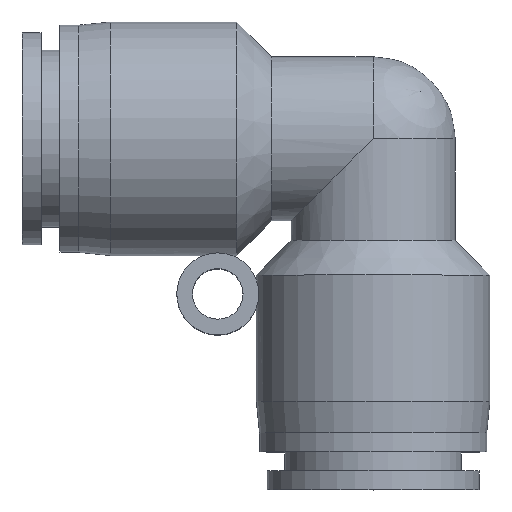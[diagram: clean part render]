
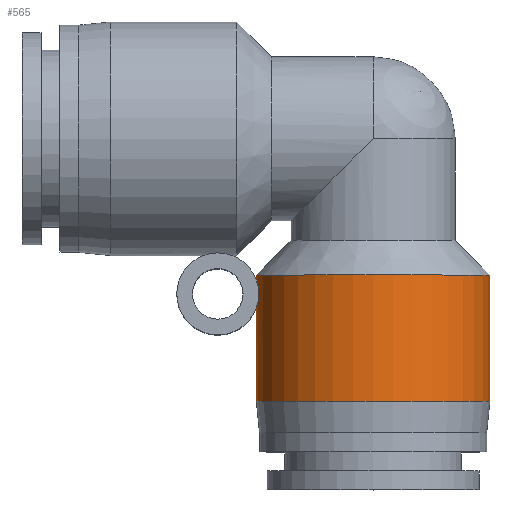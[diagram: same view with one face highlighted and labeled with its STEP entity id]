
A CAD part, top view. The second image highlights one B-rep face of the part: STEP entity #565.
In plain terms, the highlighted cylindrical face has radius 9.25 mm (diameter 18.5 mm), a full revolution.
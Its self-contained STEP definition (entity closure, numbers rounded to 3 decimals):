
#84=CARTESIAN_POINT('',(-9.25,-13.422,0.));
#85=VERTEX_POINT('',#84);
#86=CARTESIAN_POINT('',(-9.25,-13.422,0.));
#87=CARTESIAN_POINT('',(-9.25,-13.422,-0.308));
#88=CARTESIAN_POINT('',(-9.233,-13.38,-0.641));
#89=CARTESIAN_POINT('',(-9.186,-13.231,-1.098));
#90=CARTESIAN_POINT('',(-9.167,-13.168,-1.243));
#91=CARTESIAN_POINT('',(-9.127,-13.01,-1.507));
#92=CARTESIAN_POINT('',(-9.107,-12.915,-1.626));
#93=CARTESIAN_POINT('',(-9.078,-12.73,-1.777));
#94=CARTESIAN_POINT('',(-9.068,-12.65,-1.827));
#95=CARTESIAN_POINT('',(-9.054,-12.479,-1.895));
#96=CARTESIAN_POINT('',(-9.05,-12.387,-1.913));
#97=CARTESIAN_POINT('',(-9.05,-12.213,-1.913));
#98=CARTESIAN_POINT('',(-9.054,-12.121,-1.895));
#99=CARTESIAN_POINT('',(-9.068,-11.95,-1.827));
#100=CARTESIAN_POINT('',(-9.078,-11.87,-1.777));
#101=CARTESIAN_POINT('',(-9.107,-11.685,-1.626));
#102=CARTESIAN_POINT('',(-9.127,-11.59,-1.507));
#103=CARTESIAN_POINT('',(-9.167,-11.432,-1.243));
#104=CARTESIAN_POINT('',(-9.186,-11.369,-1.098));
#105=CARTESIAN_POINT('',(-9.233,-11.22,-0.641));
#106=CARTESIAN_POINT('',(-9.25,-11.178,-0.308));
#107=CARTESIAN_POINT('',(-9.25,-11.178,0.308));
#108=CARTESIAN_POINT('',(-9.233,-11.22,0.641));
#109=CARTESIAN_POINT('',(-9.186,-11.369,1.098));
#110=CARTESIAN_POINT('',(-9.167,-11.432,1.243));
#111=CARTESIAN_POINT('',(-9.127,-11.59,1.507));
#112=CARTESIAN_POINT('',(-9.107,-11.685,1.626));
#113=CARTESIAN_POINT('',(-9.078,-11.87,1.777));
#114=CARTESIAN_POINT('',(-9.068,-11.95,1.827));
#115=CARTESIAN_POINT('',(-9.054,-12.121,1.895));
#116=CARTESIAN_POINT('',(-9.05,-12.213,1.913));
#117=CARTESIAN_POINT('',(-9.05,-12.387,1.913));
#118=CARTESIAN_POINT('',(-9.054,-12.479,1.895));
#119=CARTESIAN_POINT('',(-9.068,-12.65,1.827));
#120=CARTESIAN_POINT('',(-9.078,-12.73,1.777));
#121=CARTESIAN_POINT('',(-9.107,-12.915,1.626));
#122=CARTESIAN_POINT('',(-9.127,-13.01,1.507));
#123=CARTESIAN_POINT('',(-9.167,-13.168,1.243));
#124=CARTESIAN_POINT('',(-9.186,-13.231,1.098));
#125=CARTESIAN_POINT('',(-9.233,-13.38,0.641));
#126=CARTESIAN_POINT('',(-9.25,-13.422,0.308));
#127=CARTESIAN_POINT('',(-9.25,-13.422,0.));
#128=B_SPLINE_CURVE_WITH_KNOTS('',3,(#86,#87,#88,#89,#90,#91,#92,#93,#94,#95,#96,#97,#98,#99,#100,#101,#102,#103,#104,#105,#106,#107,#108,#109,#110,#111,#112,#113,#114,#115,#116,#117,#118,#119,#120,#121,#122,#123,#124,#125,#126,#127),.UNSPECIFIED.,.T.,.U.,(4,2,2,2,2,2,2,2,2,2,2,2,2,2,2,2,2,2,2,2,4),(0.0,0.092,0.139,0.185,0.211,0.237,0.263,0.289,0.335,0.381,0.474,0.566,0.613,0.659,0.685,0.711,0.737,0.763,0.809,0.855,0.948),.UNSPECIFIED.);
#129=EDGE_CURVE('',#85,#85,#128,.T.);
#528=CARTESIAN_POINT('',(-9.25,-20.8,0.0));
#529=VERTEX_POINT('',#528);
#530=CARTESIAN_POINT('',(0.,-20.8,0.0));
#531=DIRECTION('',(0.0,1.0,0.0));
#532=DIRECTION('',(-1.0,0.0,0.0));
#533=AXIS2_PLACEMENT_3D('',#530,#531,#532);
#534=CIRCLE('',#533,9.25);
#535=EDGE_CURVE('',#529,#529,#534,.T.);
#543=CARTESIAN_POINT('',(0.,-15.8,0.0));
#544=DIRECTION('',(0.,1.0,0.0));
#545=DIRECTION('',(-1.0,0.0,0.0));
#546=AXIS2_PLACEMENT_3D('',#543,#544,#545);
#547=CYLINDRICAL_SURFACE('',#546,9.25);
#548=CARTESIAN_POINT('',(-9.25,-10.8,0.0));
#549=VERTEX_POINT('',#548);
#550=CARTESIAN_POINT('',(0.,-10.8,0.0));
#551=DIRECTION('',(0.0,1.0,0.0));
#552=DIRECTION('',(-1.0,0.0,0.0));
#553=AXIS2_PLACEMENT_3D('',#550,#551,#552);
#554=CIRCLE('',#553,9.25);
#555=EDGE_CURVE('',#549,#549,#554,.T.);
#556=ORIENTED_EDGE('',*,*,#555,.F.);
#557=EDGE_LOOP('',(#556));
#558=FACE_OUTER_BOUND('',#557,.T.);
#559=ORIENTED_EDGE('',*,*,#129,.T.);
#560=EDGE_LOOP('',(#559));
#561=FACE_BOUND('',#560,.T.);
#562=ORIENTED_EDGE('',*,*,#535,.T.);
#563=EDGE_LOOP('',(#562));
#564=FACE_BOUND('',#563,.T.);
#565=ADVANCED_FACE('',(#558,#561,#564),#547,.T.);
